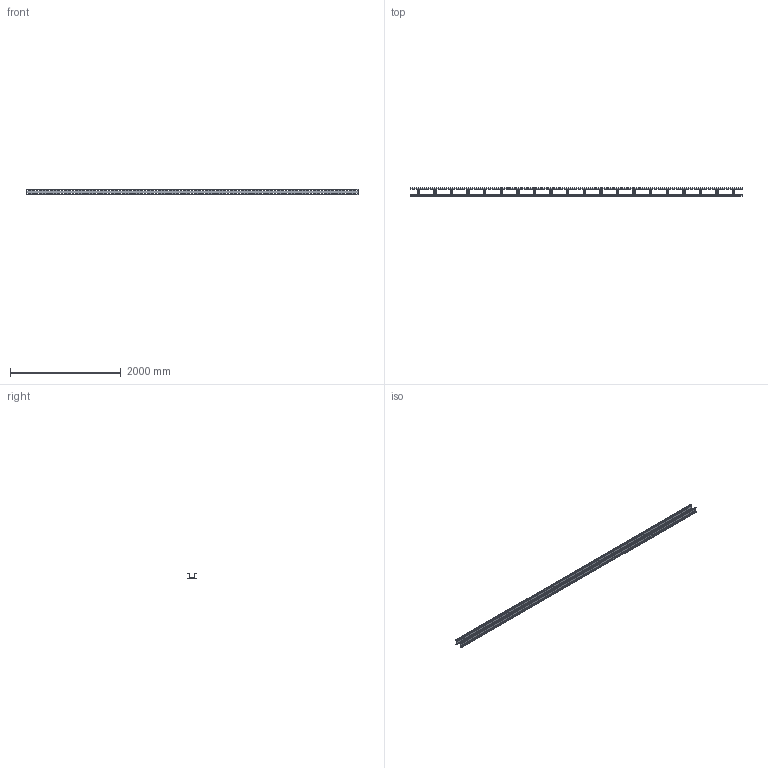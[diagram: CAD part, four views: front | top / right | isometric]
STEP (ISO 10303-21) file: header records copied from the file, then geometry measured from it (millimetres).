
FILE_DESCRIPTION(/* description */ ('','CAx-IF Rec.Pracs.---Representation and Presentation of Product Manufacturing Information (PMI)---4.0---2014-10-13'),/* implementation_level */ '2;1');
FILE_NAME(/* name */ 'Eurostrut_ECL100-100-6_Cable Ladder.step',/* time_stamp */ '2026-09-03T11:53:27+02:00',/* author */ (''),/* organization */ (''),/* preprocessor_version */ 'ST-DEVELOPER v20.1',/* originating_system */ 'Autodesk Revit 2027 27.2.0.39',/* authorisation */ '');
FILE_SCHEMA (('AP242_MANAGED_MODEL_BASED_3D_ENGINEERING_MIM_LF { 1 0 10303 442 2 1 4 }'));
Products named in the file (4): TopLevelAssembly; 60mm; 60mm_1; Cable Ladder Rung_Slotted
Assembly tree (22 placements, depth 2):
  TopLevelAssembly
    60mm
    60mm_1
    Cable Ladder Rung_Slotted  x20
Bounding box: 6000 x 146 x 100 mm (x, y, z)
Volume: 3980585 mm3; surface area: 4168152.5 mm2
Topology: 22 solids, 22 shells, 2740 faces, 8088 edges, 5392 vertices
Faces by surface type: plane 2436, bspline 200, cylinder 104
Entity records: 68988 total; most frequent: CARTESIAN_POINT 12406, ORIENTED_EDGE 12072, DIRECTION 10180, EDGE_CURVE 6036, LINE 5960, VECTOR 5960, VERTEX_POINT 4024, EDGE_LOOP 2988
